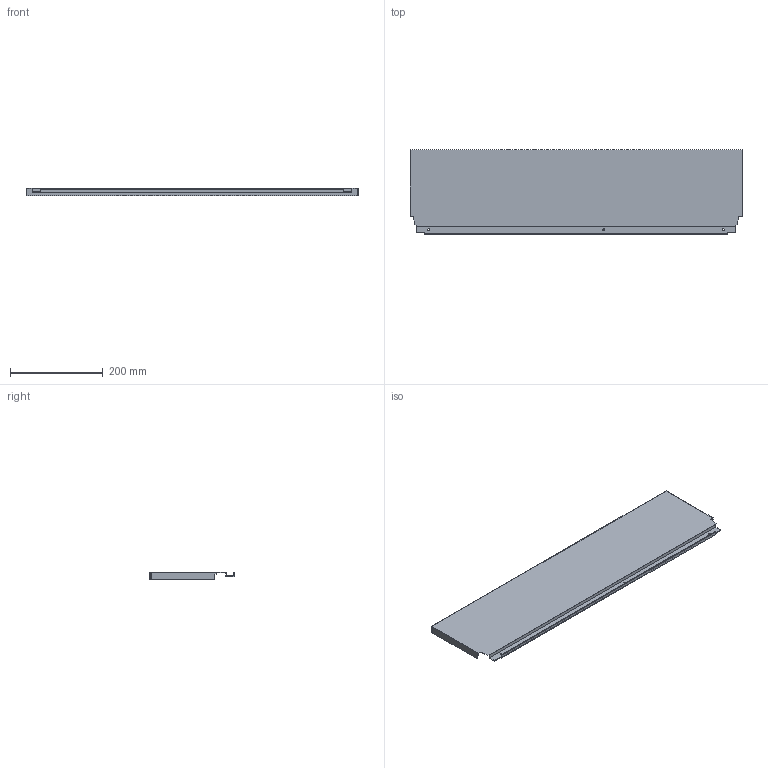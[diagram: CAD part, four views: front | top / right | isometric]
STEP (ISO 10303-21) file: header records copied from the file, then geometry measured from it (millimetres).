
FILE_DESCRIPTION (( 'STEP AP214' ), '1' );
FILE_NAME ('_DWD_XP Stahlrückwand_H182_KAB800_S16.step', '2010-07-08T12:57:36', ( 'grass' ), ( '' ), 'SwSTEP 2.0', 'SolidWorks 2010', '' );
FILE_SCHEMA (( 'AUTOMOTIVE_DESIGN' ));
Length unit declared in the file: millimetre
Products named in the file (1): _DWD_XP Stahlrückwand_H182_KAB800_S16
Bounding box: 717 x 182.49 x 16 mm (x, y, z)
Volume: 134695.9 mm3; surface area: 311739.3 mm2
Topology: 1 solids, 1 shells, 46 faces, 132 edges, 88 vertices
Faces by surface type: plane 40, cylinder 6
Entity records: 1534 total; most frequent: CARTESIAN_POINT 267, ORIENTED_EDGE 264, DIRECTION 238, EDGE_CURVE 132, LINE 120, VECTOR 120, VERTEX_POINT 88, AXIS2_PLACEMENT_3D 59
